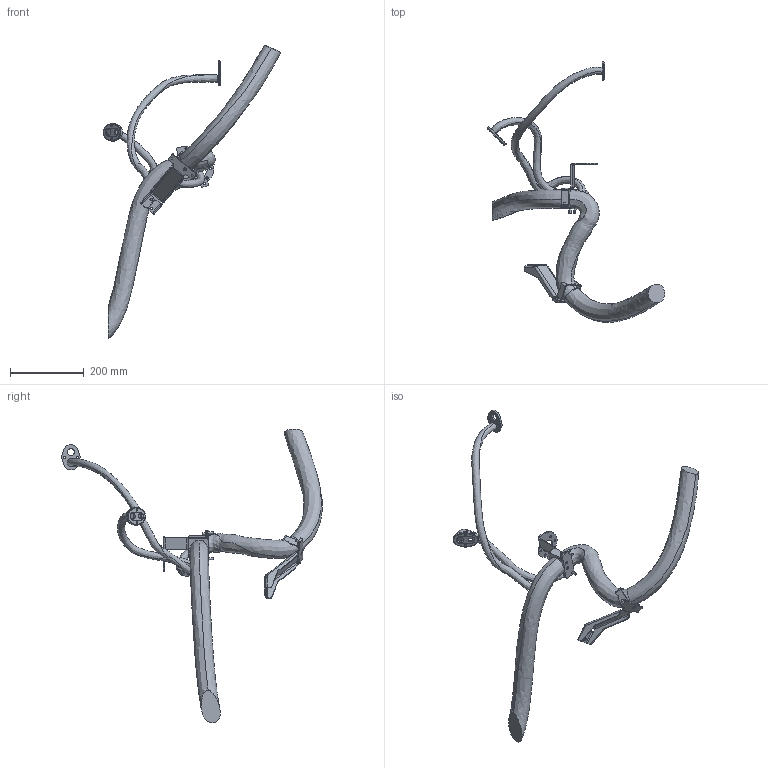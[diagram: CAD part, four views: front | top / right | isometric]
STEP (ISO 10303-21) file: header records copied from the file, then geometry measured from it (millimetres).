
FILE_DESCRIPTION (( 'STEP AP203' ), '1' );
FILE_NAME ('IRB6700_200_280_MH_CABLES_link1_01.STEP', '2013-10-23T12:31:36', ( 'ABB' ), ( 'ABB' ), 'SwSTEP 2.0', 'SolidWorks 2012', '' );
FILE_SCHEMA (( 'CONFIG_CONTROL_DESIGN' ));
Length unit declared in the file: millimetre
Products named in the file (1): IRB6700_200_280_MH_CABLES_link1_01
Bounding box: 481.44 x 707.11 x 797.51 mm (x, y, z)
Volume: 2936523.4 mm3; surface area: 350874.8 mm2
Topology: 1 solids, 2 shells, 464 faces, 1260 edges, 802 vertices
Faces by surface type: plane 234, cylinder 202, bspline 18, cone 10
Entity records: 21822 total; most frequent: CARTESIAN_POINT 10064, ORIENTED_EDGE 2520, DIRECTION 2376, EDGE_CURVE 1260, AXIS2_PLACEMENT_3D 865, VERTEX_POINT 802, LINE 646, VECTOR 646
